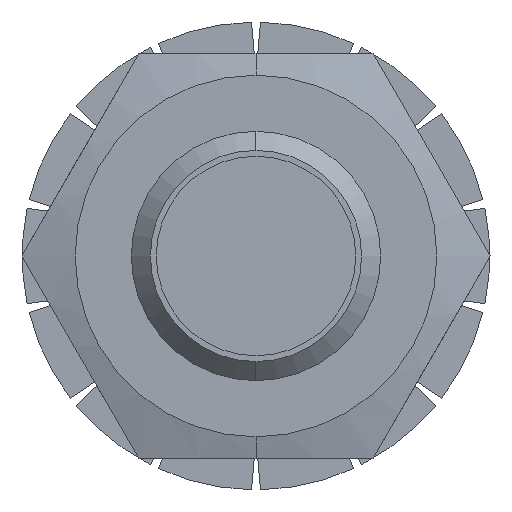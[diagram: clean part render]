
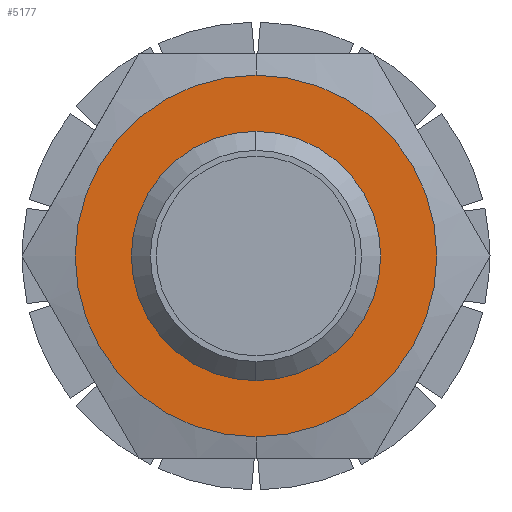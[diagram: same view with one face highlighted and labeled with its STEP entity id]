
A CAD part, left-side view. The second image highlights one B-rep face of the part: STEP entity #5177.
In plain terms, the highlighted planar face has unit normal (-1, 0, 0).
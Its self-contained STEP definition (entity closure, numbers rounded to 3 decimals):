
#455 = DIRECTION ( 'NONE',  ( 1., 0., 0. ) ) ;
#573 = FACE_BOUND ( 'NONE', #992, .T. ) ;
#639 = ORIENTED_EDGE ( 'NONE', *, *, #2975, .T. ) ;
#874 = CARTESIAN_POINT ( 'NONE',  ( -30.667, 0., 4. ) ) ;
#929 = AXIS2_PLACEMENT_3D ( 'NONE', #2261, #5311, #2698 ) ;
#992 = EDGE_LOOP ( 'NONE', ( #639, #2475 ) ) ;
#1212 = DIRECTION ( 'NONE',  ( 1., 0., 0. ) ) ;
#1547 = EDGE_LOOP ( 'NONE', ( #1762, #3259 ) ) ;
#1760 = CARTESIAN_POINT ( 'NONE',  ( -30.667, -5.8, 0. ) ) ;
#1762 = ORIENTED_EDGE ( 'NONE', *, *, #5100, .F. ) ;
#1872 = EDGE_CURVE ( 'NONE', #1979, #3950, #3826, .T. ) ;
#1979 = VERTEX_POINT ( 'NONE', #4858 ) ;
#2138 = AXIS2_PLACEMENT_3D ( 'NONE', #1760, #2208, #5259 ) ;
#2141 = CARTESIAN_POINT ( 'NONE',  ( -30.667, 0., 0. ) ) ;
#2208 = DIRECTION ( 'NONE',  ( 1., 0., 0. ) ) ;
#2261 = CARTESIAN_POINT ( 'NONE',  ( -30.667, 0., 0. ) ) ;
#2456 = VERTEX_POINT ( 'NONE', #874 ) ;
#2475 = ORIENTED_EDGE ( 'NONE', *, *, #3706, .T. ) ;
#2585 = DIRECTION ( 'NONE',  ( 0., 0., 1. ) ) ;
#2623 = CARTESIAN_POINT ( 'NONE',  ( -30.667, 0., -4. ) ) ;
#2698 = DIRECTION ( 'NONE',  ( 0., 0., -1. ) ) ;
#2741 = CARTESIAN_POINT ( 'NONE',  ( -30.667, 0., 5.8 ) ) ;
#2972 = CIRCLE ( 'NONE', #929, 4. ) ;
#2975 = EDGE_CURVE ( 'NONE', #3846, #2456, #2972, .T. ) ;
#3068 = CARTESIAN_POINT ( 'NONE',  ( -30.667, 0., 0. ) ) ;
#3259 = ORIENTED_EDGE ( 'NONE', *, *, #1872, .F. ) ;
#3505 = DIRECTION ( 'NONE',  ( 0., 0., 1. ) ) ;
#3635 = FACE_OUTER_BOUND ( 'NONE', #1547, .T. ) ;
#3706 = EDGE_CURVE ( 'NONE', #2456, #3846, #3724, .T. ) ;
#3724 = CIRCLE ( 'NONE', #5400, 4. ) ;
#3826 = CIRCLE ( 'NONE', #5162, 5.8 ) ;
#3828 = CARTESIAN_POINT ( 'NONE',  ( -30.667, 0., 0. ) ) ;
#3846 = VERTEX_POINT ( 'NONE', #2623 ) ;
#3950 = VERTEX_POINT ( 'NONE', #2741 ) ;
#4040 = CIRCLE ( 'NONE', #4886, 5.8 ) ;
#4269 = DIRECTION ( 'NONE',  ( 0., 0., -1. ) ) ;
#4369 = PLANE ( 'NONE',  #2138 ) ;
#4858 = CARTESIAN_POINT ( 'NONE',  ( -30.667, 0., -5.8 ) ) ;
#4886 = AXIS2_PLACEMENT_3D ( 'NONE', #2141, #5191, #2585 ) ;
#5100 = EDGE_CURVE ( 'NONE', #3950, #1979, #4040, .T. ) ;
#5162 = AXIS2_PLACEMENT_3D ( 'NONE', #3068, #455, #3505 ) ;
#5177 = ADVANCED_FACE ( 'NONE', ( #3635, #573 ), #4369, .F. ) ;
#5191 = DIRECTION ( 'NONE',  ( 1., 0., 0. ) ) ;
#5259 = DIRECTION ( 'NONE',  ( 0., 0., 1. ) ) ;
#5311 = DIRECTION ( 'NONE',  ( 1., 0., 0. ) ) ;
#5400 = AXIS2_PLACEMENT_3D ( 'NONE', #3828, #1212, #4269 ) ;
